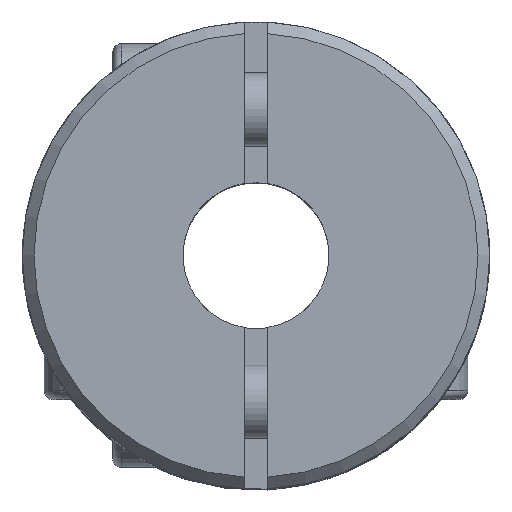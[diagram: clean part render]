
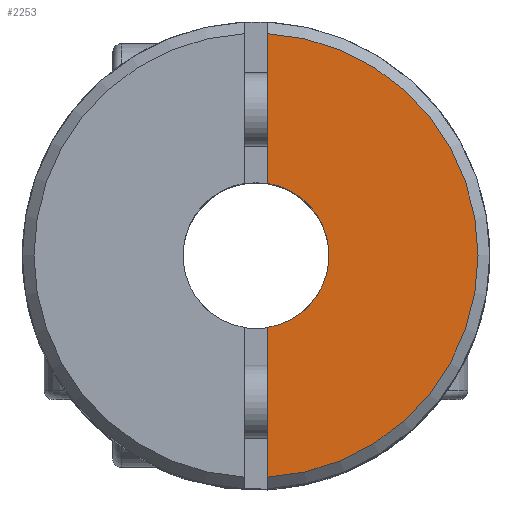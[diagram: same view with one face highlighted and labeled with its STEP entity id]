
A CAD part, top view. The second image highlights one B-rep face of the part: STEP entity #2253.
In plain terms, the highlighted planar face has unit normal (0, 0, 1).
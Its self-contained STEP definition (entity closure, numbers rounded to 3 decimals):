
#42 = CARTESIAN_POINT ( 'NONE',  ( 0.4, 7.589, 11.5 ) ) ;
#46 = EDGE_CURVE ( 'NONE', #3227, #797, #2215, .T. ) ;
#76 = VERTEX_POINT ( 'NONE', #42 ) ;
#139 = VECTOR ( 'NONE', #3619, 1000. ) ;
#213 = CARTESIAN_POINT ( 'NONE',  ( 0.4, 15., 11.5 ) ) ;
#269 = CARTESIAN_POINT ( 'NONE',  ( 0., 0., 11.5 ) ) ;
#325 = EDGE_CURVE ( 'NONE', #797, #76, #1631, .T. ) ;
#395 = EDGE_LOOP ( 'NONE', ( #4241, #3171, #815, #914 ) ) ;
#452 = CARTESIAN_POINT ( 'NONE',  ( 0.4, 15., 11.5 ) ) ;
#773 = PLANE ( 'NONE',  #3040 ) ;
#797 = VERTEX_POINT ( 'NONE', #2663 ) ;
#815 = ORIENTED_EDGE ( 'NONE', *, *, #3339, .T. ) ;
#856 = CARTESIAN_POINT ( 'NONE',  ( 0., 2.5, 11.5 ) ) ;
#914 = ORIENTED_EDGE ( 'NONE', *, *, #4551, .F. ) ;
#1493 = DIRECTION ( 'NONE',  ( 0., 0., -1. ) ) ;
#1563 = VECTOR ( 'NONE', #1625, 1000. ) ;
#1584 = AXIS2_PLACEMENT_3D ( 'NONE', #1792, #2551, #2495 ) ;
#1625 = DIRECTION ( 'NONE',  ( 0., -1., 0. ) ) ;
#1631 = CIRCLE ( 'NONE', #3848, 7.6 ) ;
#1792 = CARTESIAN_POINT ( 'NONE',  ( 0., 0., 11.5 ) ) ;
#2215 = LINE ( 'NONE', #452, #139 ) ;
#2253 = ADVANCED_FACE ( 'NONE', ( #3989 ), #773, .F. ) ;
#2279 = CARTESIAN_POINT ( 'NONE',  ( 0.4, 2.468, 11.5 ) ) ;
#2410 = CIRCLE ( 'NONE', #1584, 2.5 ) ;
#2495 = DIRECTION ( 'NONE',  ( 0., -1., 0. ) ) ;
#2551 = DIRECTION ( 'NONE',  ( 0., 0., 1. ) ) ;
#2663 = CARTESIAN_POINT ( 'NONE',  ( 0.4, -7.589, 11.5 ) ) ;
#2716 = DIRECTION ( 'NONE',  ( 0., 1., 0. ) ) ;
#2758 = LINE ( 'NONE', #213, #1563 ) ;
#3040 = AXIS2_PLACEMENT_3D ( 'NONE', #856, #1493, #4274 ) ;
#3171 = ORIENTED_EDGE ( 'NONE', *, *, #325, .T. ) ;
#3227 = VERTEX_POINT ( 'NONE', #4116 ) ;
#3339 = EDGE_CURVE ( 'NONE', #76, #4479, #2758, .T. ) ;
#3481 = DIRECTION ( 'NONE',  ( 0., 0., 1. ) ) ;
#3619 = DIRECTION ( 'NONE',  ( 0., -1., 0. ) ) ;
#3848 = AXIS2_PLACEMENT_3D ( 'NONE', #269, #3481, #2716 ) ;
#3989 = FACE_OUTER_BOUND ( 'NONE', #395, .T. ) ;
#4116 = CARTESIAN_POINT ( 'NONE',  ( 0.4, -2.468, 11.5 ) ) ;
#4241 = ORIENTED_EDGE ( 'NONE', *, *, #46, .T. ) ;
#4274 = DIRECTION ( 'NONE',  ( 0., 1., 0. ) ) ;
#4479 = VERTEX_POINT ( 'NONE', #2279 ) ;
#4551 = EDGE_CURVE ( 'NONE', #3227, #4479, #2410, .T. ) ;
